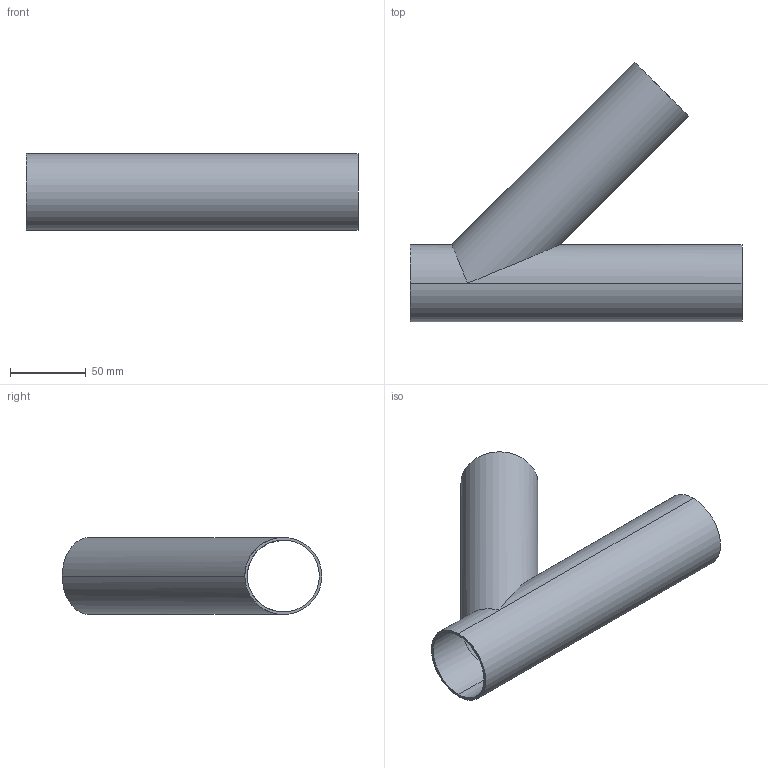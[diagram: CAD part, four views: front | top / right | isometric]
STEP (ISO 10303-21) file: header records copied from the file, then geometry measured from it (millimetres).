
FILE_DESCRIPTION (( 'STEP AP203' ), '1' );
FILE_NAME ('E28WA2.0.STEP', '2018-05-04T12:46:44', ( 'vneprd' ), ( 'Microsoft' ), 'SwSTEP 2.0', 'SolidWorks 2014', '' );
FILE_SCHEMA (( 'CONFIG_CONTROL_DESIGN' ));
Length unit declared in the file: inch
Products named in the file (1): E28WA2.0
Bounding box: 219.07 x 171.33 x 50.8 mm (x, y, z)
Volume: 90698 mm3; surface area: 110624.9 mm2
Topology: 1 solids, 1 shells, 13 faces, 32 edges, 20 vertices
Faces by surface type: cylinder 10, plane 3
Entity records: 473 total; most frequent: CARTESIAN_POINT 90, DIRECTION 64, ORIENTED_EDGE 64, EDGE_CURVE 32, AXIS2_PLACEMENT_3D 26, VERTEX_POINT 20, EDGE_LOOP 16, FACE_OUTER_BOUND 13
